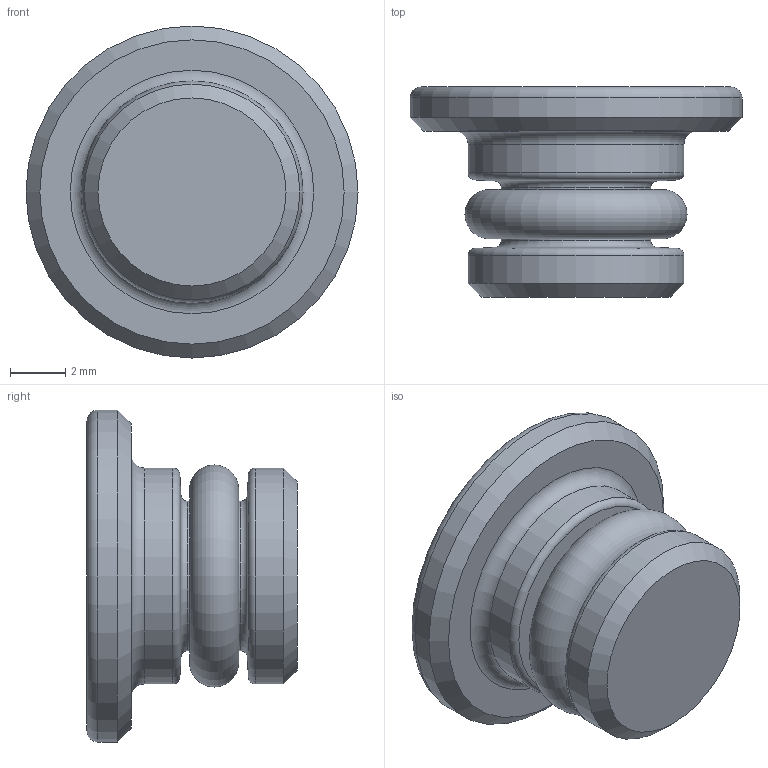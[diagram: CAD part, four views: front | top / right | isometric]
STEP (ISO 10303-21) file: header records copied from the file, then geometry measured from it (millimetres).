
FILE_DESCRIPTION (( 'STEP AP214' ), '1' );
FILE_NAME ('282473.STEP', '2013-10-08T06:14:08', ( 'ST01' ), ( '' ), 'SwSTEP 2.0', 'SolidWorks 2012', '' );
FILE_SCHEMA (( 'AUTOMOTIVE_DESIGN' ));
Length unit declared in the file: millimetre
Products named in the file (3): OR_0001G0021T300 4,47x1,78; 282473; 01V2100010200
Assembly tree (2 placements, depth 2):
  282473
    01V2100010200
    OR_0001G0021T300 4,47x1,78
Bounding box: 12 x 7.6 x 12 mm (x, y, z)
Volume: 448.2 mm3; surface area: 533.8 mm2
Topology: 2 solids, 2 shells, 18 faces, 39 edges, 24 vertices
Faces by surface type: torus 7, cylinder 4, cone 4, plane 3
Full cylindrical faces by diameter (mm): 5.4 x1, 7.8 x2, 12 x1
Entity records: 465 total; most frequent: DIRECTION 78, CARTESIAN_POINT 55, AXIS2_PLACEMENT_3D 39, ORIENTED_EDGE 32, EDGE_LOOP 32, FACE_OUTER_BOUND 27, ADVANCED_FACE 18, VERTEX_POINT 16
